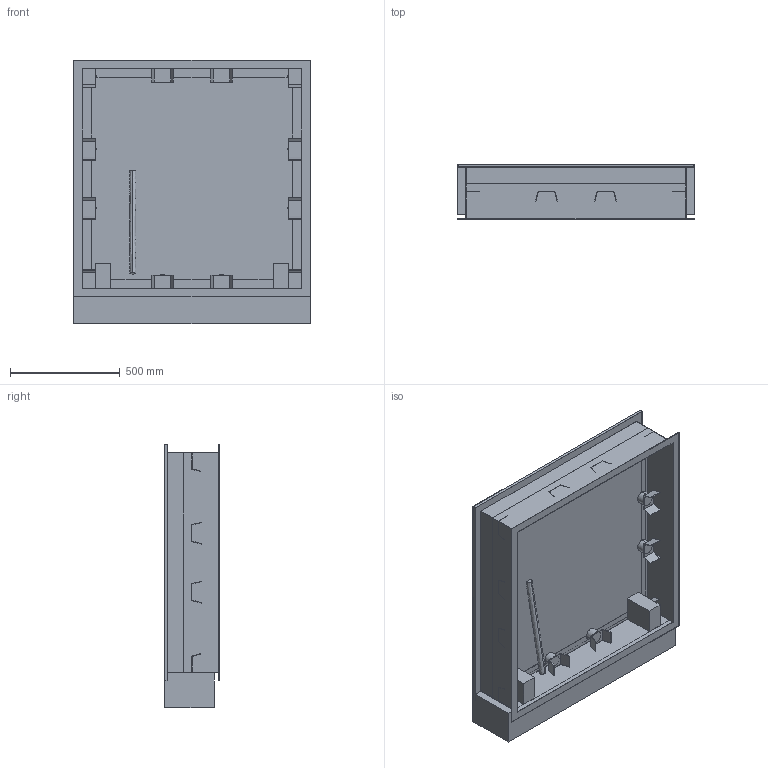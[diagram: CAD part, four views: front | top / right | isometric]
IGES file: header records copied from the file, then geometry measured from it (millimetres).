
Start section:  PTC IGES file: 51503515.igs
Global section: file name: 51503515.igs; native system: Creo Parametric by PTC Inc.; preprocessor: 2019224; author: slc; organization: Unknown; date: 20200619.110556; units: millimetre
Bounding box: 1078 x 250 x 1200 mm (x, y, z)
Surface area: 6086849.3 mm2 (no closed solid volume)
Topology: 0 solids, 0 shells, 311 faces, 1686 edges, 1686 vertices
Faces by surface type: bspline 223, revolution 88
